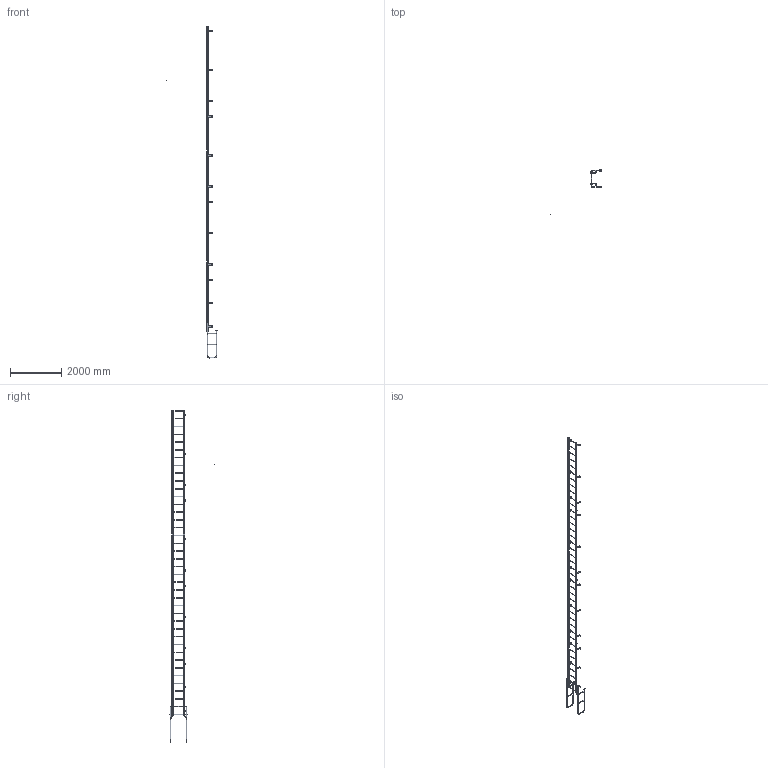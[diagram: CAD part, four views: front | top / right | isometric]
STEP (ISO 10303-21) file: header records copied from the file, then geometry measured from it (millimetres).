
FILE_DESCRIPTION(/* description */ (''),/* implementation_level */ '2;1');
FILE_NAME(/* name */ 'P:\MIKEL & KAREN\3570386 F40W SIMPLIFIED PART.stp',/* time_stamp */ '2018-07-02T16:19:29-04:00',/* author */ ('stephanie'),/* organization */ (''),/* preprocessor_version */ 'ST-DEVELOPER v16.1',/* originating_system */ 'Autodesk Inventor 2016',/* authorisation */ '');
FILE_SCHEMA (('AUTOMOTIVE_DESIGN { 1 0 10303 214 3 1 1 }'));
Length unit declared in the file: centimetre
Products named in the file (1): 3570386 F40W SIMPLIFIED PART
Bounding box: 2020.75 x 1743.22 x 13001.62 mm (x, y, z)
Volume: 22167757.8 mm3; surface area: 7430865.7 mm2
Topology: 49 solids, 49 shells, 787 faces, 2107 edges, 1390 vertices
Faces by surface type: plane 454, cylinder 325, torus 8
Full cylindrical faces by diameter (mm): 0.254 x1, 10.319 x4, 14.287 x30, 19.05 x40, 22.098 x10, 22.225 x80, 25.4 x10
Entity records: 24390 total; most frequent: CARTESIAN_POINT 4274, DIRECTION 4070, ORIENTED_EDGE 3628, EDGE_CURVE 1810, AXIS2_PLACEMENT_3D 1488, VERTEX_POINT 1276, EDGE_LOOP 1204, LINE 1094
